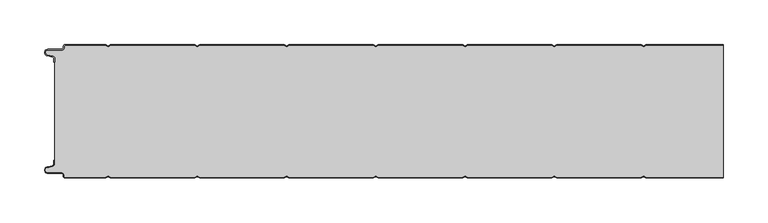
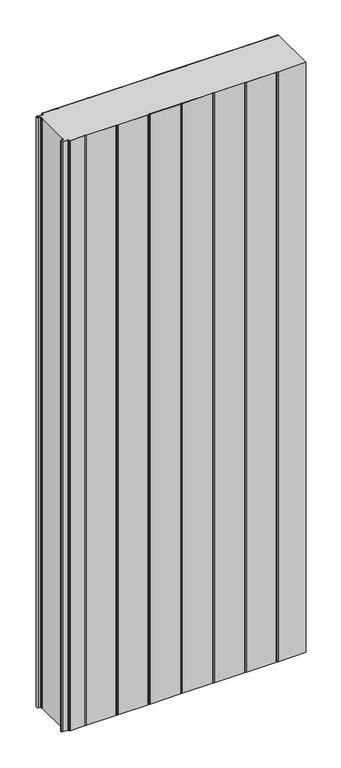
"""IFC4 building model written with IfcOpenShell, lengths in millimetres: plate geometry, PM1_Curtain-Panel_Perfil-Frigorífico : ACH_PM1_Panel-Acústico-Sectorización_150M."""

from ifc_helpers import new_model, si_unit, point, frame_2d, origin, origin_with_axes, place, context, project, spatial, polyline, circle_curve, trimmed, segment, composite_curve, outline, extrude, source, transform, mapped, element, save


def plate_d67f2b87(model_context):
    return source(origin(), model_context, "Body", "SweptSolid", [
        extrude(outline(composite_curve([segment(trimmed(circle_curve(frame_2d((-377.0119739, -15.878557)), 2.0), [point((-375.0119739, -15.878557))], [point((-376.5620718, -13.9298169))], True, "CARTESIAN"), True, "CONTINUOUS"), segment(polyline([(-376.5620718, -13.9298169), (-382.7217978, -12.507732)]), True, "CONTINUOUS"), segment(trimmed(circle_curve(frame_2d((-381.9119739, -9.0)), 3.6), [point((-382.7217978, -12.507732))], [point((-381.9119739, -5.4))], False, "CARTESIAN"), True, "CONTINUOUS"), segment(polyline([(-381.9119739, -5.4), (-366.4119739, -5.4)]), True, "CONTINUOUS"), segment(trimmed(circle_curve(frame_2d((-366.4119739, -3.4)), 2.0), [point((-366.4119739, -5.4))], [point((-364.4119739, -3.4))], True, "CARTESIAN"), True, "CONTINUOUS"), segment(polyline([(-364.4119739, -3.4), (-364.4119739, -2.0)]), True, "CONTINUOUS"), segment(trimmed(circle_curve(frame_2d((-362.4119739, -2.0)), 2.0), [point((-364.4119739, -2.0))], [point((-362.4119739, 0.0))], False, "CARTESIAN"), True, "CONTINUOUS"), segment(polyline([(-362.4119739, 0.0), (-317.1119734, 0.0), (-314.4119739, -1.5588455), (-311.7119745, 0.0), (-217.1119734, 0.0), (-214.4119739, -1.5588455), (-211.7119745, 0.0), (-117.1119734, 0.0), (-114.4119739, -1.5588455), (-111.7119745, 0.0), (-17.1119734, 0.0), (-14.4119739, -1.5588455), (-11.7119745, 0.0), (82.8880266, 0.0), (85.5880261, -1.5588455), (88.2880255, 0.0), (182.8880266, 0.0), (185.5880261, -1.5588455), (188.2880255, 0.0), (282.8880266, 0.0), (285.5880261, -1.5588455), (288.2880255, 0.0), (375.0119739, 0.0), (375.0119739, -0.8), (288.5023849, -0.8), (285.5880261, -2.482606), (282.6736672, -0.8), (188.5023849, -0.8), (185.5880261, -2.482606), (182.6736672, -0.8), (88.5023849, -0.8), (85.5880261, -2.482606), (82.6736672, -0.8), (-11.4976151, -0.8), (-14.4119739, -2.482606), (-17.3263328, -0.8), (-111.4976151, -0.8), (-114.4119739, -2.482606), (-117.3263328, -0.8), (-211.4976151, -0.8), (-214.4119739, -2.482606), (-217.3263328, -0.8), (-311.4976151, -0.8), (-314.4119739, -2.482606), (-317.3263328, -0.8), (-362.4119739, -0.8)]), True, "CONTINUOUS"), segment(trimmed(circle_curve(frame_2d((-362.4119739, -2.0)), 1.2), [point((-362.4119739, -0.8))], [point((-363.6119739, -2.0))], True, "CARTESIAN"), True, "CONTINUOUS"), segment(polyline([(-363.6119739, -2.0), (-363.6119739, -3.4)]), True, "CONTINUOUS"), segment(trimmed(circle_curve(frame_2d((-366.4119739, -3.4)), 2.8), [point((-363.6119739, -3.4))], [point((-366.4119739, -6.2))], False, "CARTESIAN"), True, "CONTINUOUS"), segment(polyline([(-366.4119739, -6.2), (-381.9119739, -6.2)]), True, "CONTINUOUS"), segment(trimmed(circle_curve(frame_2d((-381.9119739, -9.0)), 2.8), [point((-381.9119739, -6.2))], [point((-382.541837, -11.7282362))], True, "CARTESIAN"), True, "CONTINUOUS"), segment(polyline([(-382.541837, -11.7282362), (-376.3821109, -13.150321)]), True, "CONTINUOUS"), segment(trimmed(circle_curve(frame_2d((-377.0119739, -15.878557)), 2.8), [point((-376.3821109, -13.150321))], [point((-374.2119739, -15.878557))], False, "CARTESIAN"), True, "CONTINUOUS"), segment(polyline([(-374.2119739, -15.878557), (-374.2119739, -20.0), (-375.0119739, -20.0), (-375.0119739, -15.878557)]), True, "CONTINUOUS")], self_intersect=False)), origin_with_axes(), (0.0, 0.0, 1.0), 1945.7507136),
        extrude(outline(composite_curve([segment(polyline([(-374.2119739, -134.1214426), (-374.2119739, -15.8785573)]), True, "CONTINUOUS"), segment(trimmed(circle_curve(frame_2d((-377.0119739, -15.8785573)), 2.8), [point((-374.2119739, -15.8785573))], [point((-376.3821109, -13.1503212))], True, "CARTESIAN"), True, "CONTINUOUS"), segment(polyline([(-376.3821109, -13.1503212), (-382.541837, -11.7282362)]), True, "CONTINUOUS"), segment(trimmed(circle_curve(frame_2d((-381.911974, -9.0)), 2.8), [point((-382.541837, -11.7282362))], [point((-381.911974, -6.2))], False, "CARTESIAN"), True, "CONTINUOUS"), segment(polyline([(-381.911974, -6.2), (-366.411974, -6.2)]), True, "CONTINUOUS"), segment(trimmed(circle_curve(frame_2d((-366.411974, -3.4)), 2.8), [point((-366.411974, -6.2))], [point((-363.611974, -3.4))], True, "CARTESIAN"), True, "CONTINUOUS"), segment(polyline([(-363.611974, -3.4), (-363.611974, -2.0)]), True, "CONTINUOUS"), segment(trimmed(circle_curve(frame_2d((-362.411974, -2.0)), 1.2), [point((-363.611974, -2.0))], [point((-362.411974, -0.8))], False, "CARTESIAN"), True, "CONTINUOUS"), segment(polyline([(-362.411974, -0.8), (-317.3263329, -0.8), (-314.411974, -2.482606), (-311.4976152, -0.8), (-217.3263329, -0.8), (-214.411974, -2.482606), (-211.4976152, -0.8), (-117.3263329, -0.8), (-114.411974, -2.482606), (-111.4976152, -0.8), (-17.3263329, -0.8), (-14.411974, -2.482606), (-11.4976152, -0.8), (82.6736671, -0.8), (85.588026, -2.482606), (88.5023848, -0.8), (182.6736671, -0.8), (185.588026, -2.482606), (188.5023848, -0.8), (282.6736671, -0.8), (285.588026, -2.482606), (288.5023848, -0.8), (375.0119739, -0.8), (375.0119739, -149.2), (288.5023848, -149.2), (285.588026, -147.517394), (282.6736671, -149.2), (188.5023848, -149.2), (185.588026, -147.517394), (182.6736671, -149.2), (88.5023848, -149.2), (85.588026, -147.517394), (82.6736671, -149.2), (-11.4976152, -149.2), (-14.411974, -147.517394), (-17.3263329, -149.2), (-111.4976152, -149.2), (-114.411974, -147.517394), (-117.3263329, -149.2), (-211.4976152, -149.2), (-214.411974, -147.517394), (-217.3263329, -149.2), (-311.4976152, -149.2), (-314.411974, -147.517394), (-317.3263329, -149.2), (-362.411974, -149.2)]), True, "CONTINUOUS"), segment(trimmed(circle_curve(frame_2d((-362.411974, -148.0)), 1.2), [point((-362.411974, -149.2))], [point((-363.611974, -148.0))], False, "CARTESIAN"), True, "CONTINUOUS"), segment(polyline([(-363.611974, -148.0), (-363.611974, -146.6)]), True, "CONTINUOUS"), segment(trimmed(circle_curve(frame_2d((-366.411974, -146.6)), 2.8), [point((-363.611974, -146.6))], [point((-366.411974, -143.8))], True, "CARTESIAN"), True, "CONTINUOUS"), segment(polyline([(-366.411974, -143.8), (-381.911974, -143.8)]), True, "CONTINUOUS"), segment(trimmed(circle_curve(frame_2d((-381.911974, -141.0)), 2.8), [point((-381.911974, -143.8))], [point((-382.541837, -138.2717638))], False, "CARTESIAN"), True, "CONTINUOUS"), segment(polyline([(-382.541837, -138.2717638), (-376.3821109, -136.8496788)]), True, "CONTINUOUS"), segment(trimmed(circle_curve(frame_2d((-377.0119739, -134.1214426)), 2.8), [point((-376.3821109, -136.8496788))], [point((-374.2119739, -134.1214426))], True, "CARTESIAN"), True, "CONTINUOUS")], self_intersect=False)), origin_with_axes(), (0.0, 0.0, 1.0), 1945.7507136),
        extrude(outline(composite_curve([segment(polyline([(-375.0119739, -134.121443), (-375.0119739, -130.0), (-374.2119739, -130.0), (-374.2119739, -134.121443)]), True, "CONTINUOUS"), segment(trimmed(circle_curve(frame_2d((-377.0119739, -134.121443)), 2.8), [point((-374.2119739, -134.121443))], [point((-376.3821109, -136.8496792))], False, "CARTESIAN"), True, "CONTINUOUS"), segment(polyline([(-376.3821109, -136.8496792), (-382.5418369, -138.271764)]), True, "CONTINUOUS"), segment(trimmed(circle_curve(frame_2d((-381.9119739, -141.0)), 2.8), [point((-382.5418369, -138.271764))], [point((-381.9119739, -143.8))], True, "CARTESIAN"), True, "CONTINUOUS"), segment(polyline([(-381.9119739, -143.8), (-366.4119739, -143.8)]), True, "CONTINUOUS"), segment(trimmed(circle_curve(frame_2d((-366.4119739, -146.6)), 2.8), [point((-366.4119739, -143.8))], [point((-363.6119739, -146.6))], False, "CARTESIAN"), True, "CONTINUOUS"), segment(polyline([(-363.6119739, -146.6), (-363.6119739, -148.0)]), True, "CONTINUOUS"), segment(trimmed(circle_curve(frame_2d((-362.4119739, -148.0)), 1.2), [point((-363.6119739, -148.0))], [point((-362.4119739, -149.2))], True, "CARTESIAN"), True, "CONTINUOUS"), segment(polyline([(-362.4119739, -149.2), (-317.3263328, -149.2), (-314.4119739, -147.517394), (-311.4976151, -149.2), (-217.3263328, -149.2), (-214.4119739, -147.517394), (-211.4976151, -149.2), (-117.3263328, -149.2), (-114.4119739, -147.517394), (-111.4976151, -149.2), (-17.3263328, -149.2), (-14.4119739, -147.517394), (-11.4976151, -149.2), (82.6736672, -149.2), (85.5880261, -147.517394), (88.5023849, -149.2), (182.6736672, -149.2), (185.5880261, -147.517394), (188.5023849, -149.2), (282.6736672, -149.2), (285.5880261, -147.517394), (288.5023849, -149.2), (375.0119739, -149.2), (375.0119739, -150.0), (288.2880255, -150.0), (285.5880261, -148.4411545), (282.8880266, -150.0), (188.2880255, -150.0), (185.5880261, -148.4411545), (182.8880266, -150.0), (88.2880255, -150.0), (85.5880261, -148.4411545), (82.8880266, -150.0), (-11.7119745, -150.0), (-14.4119739, -148.4411545), (-17.1119734, -150.0), (-111.7119745, -150.0), (-114.4119739, -148.4411545), (-117.1119734, -150.0), (-211.7119745, -150.0), (-214.4119739, -148.4411545), (-217.1119734, -150.0), (-311.7119745, -150.0), (-314.4119739, -148.4411545), (-317.1119734, -150.0), (-362.4119739, -150.0)]), True, "CONTINUOUS"), segment(trimmed(circle_curve(frame_2d((-362.4119739, -148.0)), 2.0), [point((-362.4119739, -150.0))], [point((-364.4119739, -148.0))], False, "CARTESIAN"), True, "CONTINUOUS"), segment(polyline([(-364.4119739, -148.0), (-364.4119739, -146.6)]), True, "CONTINUOUS"), segment(trimmed(circle_curve(frame_2d((-366.4119739, -146.6)), 2.0), [point((-364.4119739, -146.6))], [point((-366.4119739, -144.6))], True, "CARTESIAN"), True, "CONTINUOUS"), segment(polyline([(-366.4119739, -144.6), (-381.9119739, -144.6)]), True, "CONTINUOUS"), segment(trimmed(circle_curve(frame_2d((-381.9119739, -141.0)), 3.6), [point((-381.9119739, -144.6))], [point((-382.7217979, -137.4922678))], False, "CARTESIAN"), True, "CONTINUOUS"), segment(polyline([(-382.7217979, -137.4922678), (-376.5620718, -136.070183)]), True, "CONTINUOUS"), segment(trimmed(circle_curve(frame_2d((-377.0119739, -134.121443)), 2.0), [point((-376.5620718, -136.070183))], [point((-375.0119739, -134.121443))], True, "CARTESIAN"), True, "CONTINUOUS")], self_intersect=False)), origin_with_axes(), (0.0, 0.0, 1.0), 1945.7507136),
    ])


if __name__ == "__main__":
    model = new_model("IFC4")
    model_context = context("Model", 3, world=origin())
    ifc_project = project(units=[si_unit("LENGTHUNIT", "METRE", prefix="MILLI")], contexts=[model_context])
    site = spatial("IfcSite", under=ifc_project)
    building = spatial("IfcBuilding", under=site)
    placement = place(None, origin())
    plate_shape = plate_d67f2b87(model_context)
    element("IfcPlate", 1, ObjectType="PM1_Curtain-Panel_Perfil-Frigorífico : ACH_PM1_Panel-Acústico-Sectorización_150M", at=placement, inside=building, context=model_context, shape_type="MappedRepresentation", body=[
        mapped(plate_shape, transform((0.0, 0.0, 0.0), x_axis=(1.0, 0.0, 0.0), y_axis=(0.0, 1.0, 0.0), z_axis=(0.0, 0.0, 1.0))),
    ])
    save(model, "model.ifc")
